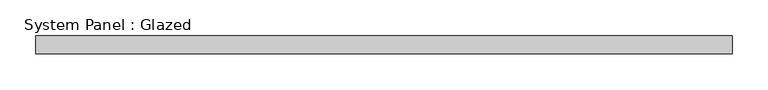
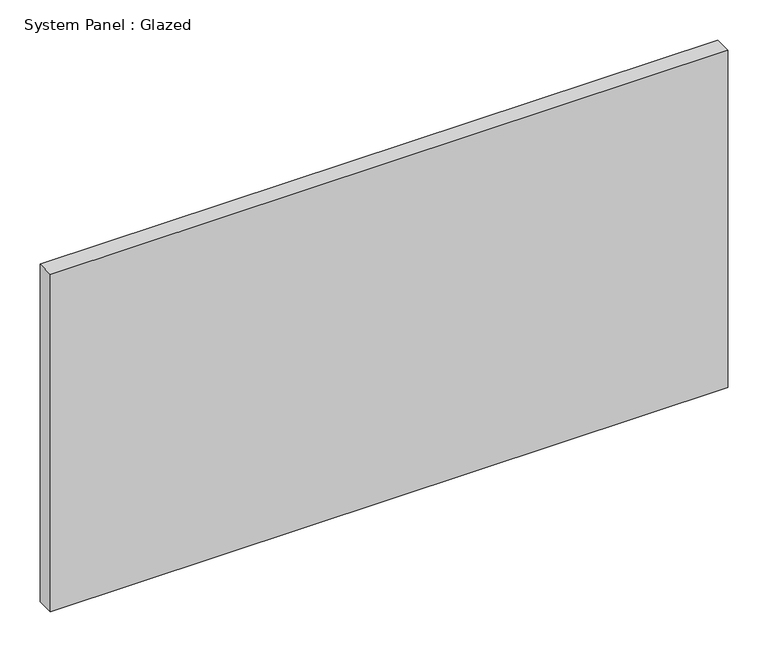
"""IFC4 building model written with IfcOpenShell, lengths in millimetres: plate geometry, System Panel : Glazed."""

import ifcopenshell
import ifcopenshell.guid

model = None  # the IFC model being written
_history = None  # IfcOwnerHistory: only IFC2X3 demands one
_inside = {}  # id of a spatial element -> (the spatial element, [elements in it])
_under = {}  # id of a project, library or spatial element -> (it, [spatial elements below it])
_declared = {}  # id of a project -> (the project, [libraries it declares])
_typed = {}  # id of a type object -> (the type object, [elements of that type])
_made_of = {}  # id of a material, layer set ... -> (it, [elements and type objects made of it])


def new_model(schema):
    """Start an empty IFC model of exactly this schema.

    Asked for "IFC4X3", IfcOpenShell would pick the latest addendum, in which some entities
    have other attributes; the version numbers below select the first issue.
    IFC2X3 requires an IfcOwnerHistory on every rooted entity: one is made here for all.
    """
    global model, _history
    if schema == "IFC4X3":
        model = ifcopenshell.file(schema_version=(4, 3, 0, 0))
    else:
        model = ifcopenshell.file(schema=schema)
    _inside.clear()
    _under.clear()
    _declared.clear()
    _typed.clear()
    _made_of.clear()
    _history = None
    if model.schema == "IFC2X3":
        org = make("IfcOrganization", Name="unknown")
        user = make(
            "IfcPersonAndOrganization",
            ThePerson=make("IfcPerson", FamilyName="unknown"),
            TheOrganization=org,
        )
        app = make(
            "IfcApplication",
            ApplicationDeveloper=org,
            Version="unknown",
            ApplicationFullName="unknown",
            ApplicationIdentifier="unknown",
        )
        _history = make(
            "IfcOwnerHistory",
            OwningUser=user,
            OwningApplication=app,
            ChangeAction="ADDED",
            CreationDate=0,
        )
    return model


def make(cls, **values):
    """One entity of the class cls with the attributes given. An attribute that is None is left unset."""
    return model.create_entity(
        cls, **{name: value for name, value in values.items() if value is not None}
    )


def rooted(cls, **values):
    """An entity with a GlobalId (a new one), such as an element, a storey or a relation."""
    return make(cls, GlobalId=ifcopenshell.guid.new(), OwnerHistory=_history, **values)


def si_unit(unit_type, name, prefix=None):
    """IfcSIUnit, for example si_unit("LENGTHUNIT", "METRE", prefix="MILLI")."""
    return make("IfcSIUnit", UnitType=unit_type, Prefix=prefix, Name=name)


def assignment(units):
    """IfcUnitAssignment: the units of a project."""
    return None if units is None else make("IfcUnitAssignment", Units=units)


def point(xyz):
    """IfcCartesianPoint."""
    return None if xyz is None else make("IfcCartesianPoint", Coordinates=xyz)


def direction(xyz):
    """IfcDirection."""
    return None if xyz is None else make("IfcDirection", DirectionRatios=xyz)


def frame(location, z_axis=None, x_axis=None):
    """IfcAxis2Placement3D, a coordinate frame: its origin and axes. An axis left out is left unset."""
    return make(
        "IfcAxis2Placement3D",
        Location=point(location),
        Axis=direction(z_axis),
        RefDirection=direction(x_axis),
    )


def origin():
    """The frame at (0, 0, 0) with its axes left unset."""
    return frame((0.0, 0.0, 0.0))


def origin_with_axes():
    """The frame at (0, 0, 0) with the z axis (0, 0, 1) and the x axis (1, 0, 0) written out."""
    return frame((0.0, 0.0, 0.0), z_axis=(0.0, 0.0, 1.0), x_axis=(1.0, 0.0, 0.0))


def place(relative_to, where):
    """IfcLocalPlacement: puts the frame where relative to a parent placement (None: the world)."""
    return make(
        "IfcLocalPlacement", PlacementRelTo=relative_to, RelativePlacement=where
    )


def context(
    kind, dimensions, precision=None, world=None, true_north=None, identifier=None
):
    """IfcGeometricRepresentationContext, for example the 3D "Model" context."""
    return make(
        "IfcGeometricRepresentationContext",
        ContextIdentifier=identifier,
        ContextType=kind,
        CoordinateSpaceDimension=dimensions,
        Precision=precision,
        WorldCoordinateSystem=world,
        TrueNorth=true_north,
    )


def project(units=None, contexts=None):
    """IfcProject with its units and contexts."""
    return rooted(
        "IfcProject",
        Name="project",
        RepresentationContexts=contexts,
        UnitsInContext=assignment(units),
    )


def spatial(cls, under=None, at=None, **own):
    """A site, building, storey or space (cls), placed at a placement, below another one or the project."""
    s = rooted(cls, ObjectPlacement=at, **own)
    if under is not None:
        _under.setdefault(under.id(), (under, []))[1].append(s)
    return s


def polyline(points):
    """IfcPolyline through the points."""
    return make("IfcPolyline", Points=[point(p) for p in points])


def outline(outer, holes=None, kind="AREA"):
    """IfcArbitraryClosedProfileDef: a profile drawn as a closed curve; with holes, ...WithVoids."""
    if holes is None:
        return make("IfcArbitraryClosedProfileDef", ProfileType=kind, OuterCurve=outer)
    return make(
        "IfcArbitraryProfileDefWithVoids",
        ProfileType=kind,
        OuterCurve=outer,
        InnerCurves=holes,
    )


def extrude(swept, where, along, depth):
    """IfcExtrudedAreaSolid: the profile swept, set in the frame where, extruded along a direction by depth."""
    return make(
        "IfcExtrudedAreaSolid",
        SweptArea=swept,
        Position=where,
        ExtrudedDirection=direction(along),
        Depth=depth,
    )


def shape(context_of_items, identifier, shape_type, items):
    """IfcShapeRepresentation: the items that make up one representation, for example the "Body"."""
    return make(
        "IfcShapeRepresentation",
        ContextOfItems=context_of_items,
        RepresentationIdentifier=identifier,
        RepresentationType=shape_type,
        Items=items,
    )


def source(mapping_origin, context_of_items, identifier, shape_type, items):
    """IfcRepresentationMap: a shape defined once, which mapped items show again and again."""
    return make(
        "IfcRepresentationMap",
        MappingOrigin=mapping_origin,
        MappedRepresentation=shape(context_of_items, identifier, shape_type, items),
    )


def transform(
    local_origin,
    x_axis=None,
    y_axis=None,
    z_axis=None,
    scale=None,
    scale2=None,
    scale3=None,
    uniform=True,
):
    """IfcCartesianTransformationOperator3D, or its non-uniform kind. x_axis, y_axis, z_axis: its Axis1, 2, 3."""
    if uniform:
        return make(
            "IfcCartesianTransformationOperator3D",
            Axis1=direction(x_axis),
            Axis2=direction(y_axis),
            LocalOrigin=point(local_origin),
            Scale=scale,
            Axis3=direction(z_axis),
        )
    return make(
        "IfcCartesianTransformationOperator3DnonUniform",
        Axis1=direction(x_axis),
        Axis2=direction(y_axis),
        LocalOrigin=point(local_origin),
        Scale=scale,
        Axis3=direction(z_axis),
        Scale2=scale2,
        Scale3=scale3,
    )


def mapped(mapping_source, mapping_target):
    """IfcMappedItem: shows the shape of a source again, moved by a transform."""
    return make(
        "IfcMappedItem", MappingSource=mapping_source, MappingTarget=mapping_target
    )


def made_of(thing, what):
    """Note that an element or type object is made of a material, layer set ...; save() writes the relation."""
    if what is not None:
        _made_of.setdefault(what.id(), (what, []))[1].append(thing)
    return thing


def element(
    cls,
    number,
    at=None,
    inside=None,
    cuts=None,
    type_object=None,
    material=None,
    context=None,
    identifier="Body",
    shape_type=None,
    held_by="IfcProductDefinitionShape",
    body=None,
    shapes=None,
    **own,
):
    """One element of the class cls, such as IfcWall. Its Tag is "e" and its number.

    at: its placement. inside: the storey or other place that contains it. cuts: it is an
    opening in that element (IfcRelVoidsElement). A single representation is given by context,
    identifier, shape_type and body (its items); several are given by shapes. held_by: the class
    of the entity that holds the representations. save() writes the other relations.
    """
    e = rooted(cls, Tag="e%d" % number, ObjectPlacement=at, **own)
    if body is not None:
        shapes = [shape(context, identifier, shape_type, body)]
    if shapes is not None:
        e.Representation = make(held_by, Representations=shapes)
    if inside is not None:
        _inside.setdefault(inside.id(), (inside, []))[1].append(e)
    if cuts is not None:
        rooted(
            "IfcRelVoidsElement", RelatingBuildingElement=cuts, RelatedOpeningElement=e
        )
    if type_object is not None:
        _typed.setdefault(type_object.id(), (type_object, []))[1].append(e)
    return made_of(e, material)


def aggregate(whole, parts):
    """IfcRelAggregates: a whole, such as a stair, and the parts it consists of."""
    return rooted("IfcRelAggregates", RelatingObject=whole, RelatedObjects=parts)


def save(model, path):
    """Write the relations noted so far, then the file.

    IfcRelAggregates (storeys below a building ...), IfcRelContainedInSpatialStructure (elements
    in a storey), IfcRelDefinesByType, IfcRelAssociatesMaterial and IfcRelDeclares: one each for
    every whole, place, type object, material and project.
    """
    for whole, parts in _under.values():
        aggregate(whole, parts)
    for where, things in _inside.values():
        rooted(
            "IfcRelContainedInSpatialStructure",
            RelatedElements=things,
            RelatingStructure=where,
        )
    for kind, things in _typed.values():
        rooted("IfcRelDefinesByType", RelatedObjects=things, RelatingType=kind)
    for what, things in _made_of.values():
        rooted("IfcRelAssociatesMaterial", RelatedObjects=things, RelatingMaterial=what)
    for by, libraries in _declared.values():
        rooted("IfcRelDeclares", RelatingContext=by, RelatedDefinitions=libraries)
    model.write(path)


def system_panel_glazed_3348b873(model_context):
    return source(origin(), model_context, "Body", "SweptSolid", [
        extrude(outline(polyline([(488.0339313, -44.45), (-488.0339313, -44.45), (-488.0339313, -19.05), (488.0339313, -19.05), (488.0339313, -44.45)])), origin_with_axes(), (0.0, 0.0, 1.0), 514.35),
    ])


if __name__ == "__main__":
    model = new_model("IFC4")
    model_context = context("Model", 3, world=origin())
    ifc_project = project(units=[si_unit("LENGTHUNIT", "METRE", prefix="MILLI")], contexts=[model_context])
    site = spatial("IfcSite", under=ifc_project)
    building = spatial("IfcBuilding", under=site)
    placement = place(None, origin())
    system_panel_glazed_shape = system_panel_glazed_3348b873(model_context)
    element("IfcPlate", 1, ObjectType="System Panel : Glazed", at=placement, inside=building, context=model_context, shape_type="MappedRepresentation", body=[
        mapped(system_panel_glazed_shape, transform((0.0, 0.0, 0.0), x_axis=(1.0, 0.0, 0.0), y_axis=(0.0, 1.0, 0.0), z_axis=(0.0, 0.0, 1.0))),
    ])
    save(model, "model.ifc")
